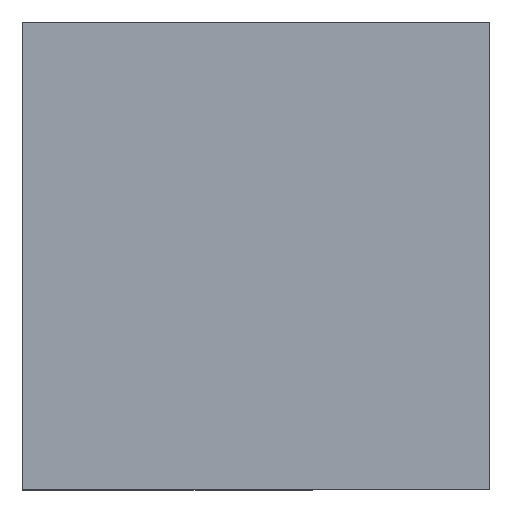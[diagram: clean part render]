
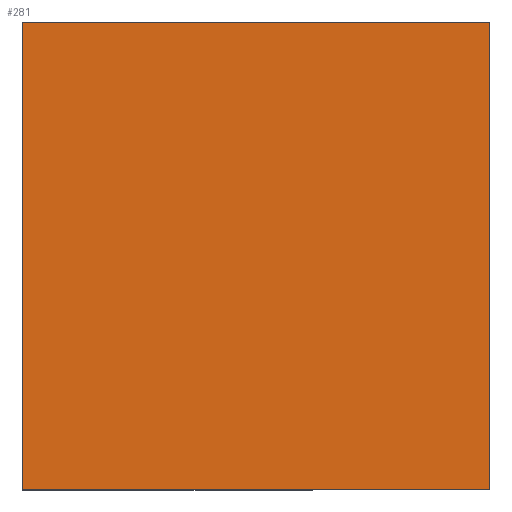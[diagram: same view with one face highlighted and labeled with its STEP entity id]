
A CAD part, top view. The second image highlights one B-rep face of the part: STEP entity #281.
In plain terms, the highlighted planar face has unit normal (0, 0, 1).
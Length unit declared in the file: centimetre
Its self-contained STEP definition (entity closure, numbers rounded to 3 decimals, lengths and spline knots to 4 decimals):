
#36 = DIRECTION ( 'NONE',  ( 1., 0., 0. ) ) ;
#57 = EDGE_CURVE ( 'NONE', #68, #348, #116, .T. ) ;
#68 = VERTEX_POINT ( 'NONE', #603 ) ;
#108 = DIRECTION ( 'NONE',  ( 0., -1., 0. ) ) ;
#116 = LINE ( 'NONE', #312, #616 ) ;
#156 = DIRECTION ( 'NONE',  ( 0., 0., 1. ) ) ;
#182 = AXIS2_PLACEMENT_3D ( 'NONE', #631, #156, #36 ) ;
#227 = ORIENTED_EDGE ( 'NONE', *, *, #540, .T. ) ;
#233 = EDGE_LOOP ( 'NONE', ( #227, #286, #489, #606 ) ) ;
#269 = EDGE_CURVE ( 'NONE', #776, #68, #340, .T. ) ;
#276 = VECTOR ( 'NONE', #503, 100. ) ;
#281 = ADVANCED_FACE ( 'NONE', ( #394 ), #689, .T. ) ;
#286 = ORIENTED_EDGE ( 'NONE', *, *, #269, .T. ) ;
#312 = CARTESIAN_POINT ( 'NONE',  ( 1000., 1000., 1000. ) ) ;
#340 = LINE ( 'NONE', #461, #392 ) ;
#348 = VERTEX_POINT ( 'NONE', #391 ) ;
#373 = CARTESIAN_POINT ( 'NONE',  ( 0., 0., 1000. ) ) ;
#391 = CARTESIAN_POINT ( 'NONE',  ( 1000., 1000., 1000. ) ) ;
#392 = VECTOR ( 'NONE', #458, 100. ) ;
#394 = FACE_OUTER_BOUND ( 'NONE', #233, .T. ) ;
#414 = CARTESIAN_POINT ( 'NONE',  ( 0., 1000., 1000. ) ) ;
#418 = CARTESIAN_POINT ( 'NONE',  ( 0., 1000., 1000. ) ) ;
#454 = CARTESIAN_POINT ( 'NONE',  ( 0., 1000., 1000. ) ) ;
#458 = DIRECTION ( 'NONE',  ( 1., 0., 0. ) ) ;
#461 = CARTESIAN_POINT ( 'NONE',  ( 0., 0., 1000. ) ) ;
#489 = ORIENTED_EDGE ( 'NONE', *, *, #57, .T. ) ;
#503 = DIRECTION ( 'NONE',  ( -1., 0., 0. ) ) ;
#540 = EDGE_CURVE ( 'NONE', #550, #776, #697, .T. ) ;
#550 = VERTEX_POINT ( 'NONE', #418 ) ;
#603 = CARTESIAN_POINT ( 'NONE',  ( 1000., 0., 1000. ) ) ;
#606 = ORIENTED_EDGE ( 'NONE', *, *, #744, .T. ) ;
#616 = VECTOR ( 'NONE', #709, 100. ) ;
#623 = VECTOR ( 'NONE', #108, 100. ) ;
#631 = CARTESIAN_POINT ( 'NONE',  ( 0., 0., 1000. ) ) ;
#689 = PLANE ( 'NONE',  #182 ) ;
#697 = LINE ( 'NONE', #414, #623 ) ;
#709 = DIRECTION ( 'NONE',  ( 0., 1., 0. ) ) ;
#733 = LINE ( 'NONE', #454, #276 ) ;
#744 = EDGE_CURVE ( 'NONE', #348, #550, #733, .T. ) ;
#776 = VERTEX_POINT ( 'NONE', #373 ) ;
